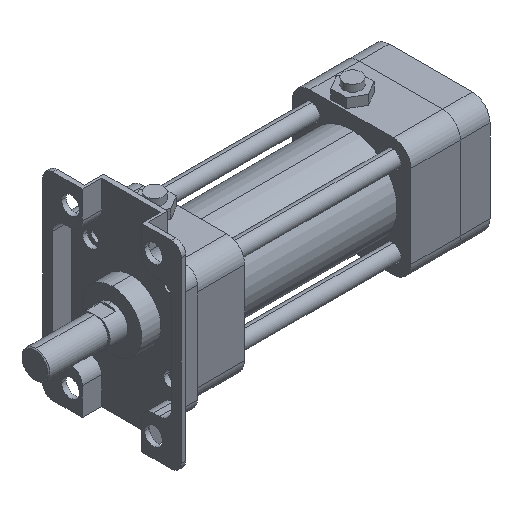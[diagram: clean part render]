
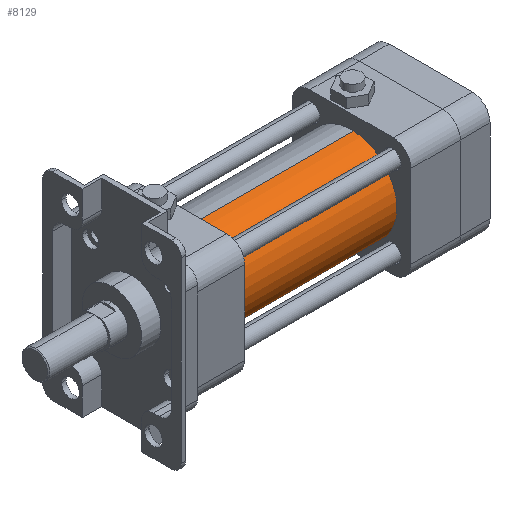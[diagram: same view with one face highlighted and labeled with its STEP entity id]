
A CAD part, isometric view. The second image highlights one B-rep face of the part: STEP entity #8129.
In plain terms, the highlighted cylindrical face has radius 23 mm (diameter 46 mm), a partial arc.
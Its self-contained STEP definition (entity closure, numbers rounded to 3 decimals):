
#30 = VERTEX_POINT ( 'NONE', #4611 ) ;
#730 = VERTEX_POINT ( 'NONE', #11899 ) ;
#848 = ORIENTED_EDGE ( 'NONE', *, *, #11825, .T. ) ;
#1367 = CYLINDRICAL_SURFACE ( 'NONE', #7016, 23. ) ;
#1640 = EDGE_CURVE ( 'NONE', #730, #6304, #3526, .T. ) ;
#1740 = FACE_OUTER_BOUND ( 'NONE', #4678, .T. ) ;
#2250 = LINE ( 'NONE', #5351, #10307 ) ;
#2354 = DIRECTION ( 'NONE',  ( -1., 0., 0. ) ) ;
#2747 = DIRECTION ( 'NONE',  ( -1., 0., 0. ) ) ;
#3526 = LINE ( 'NONE', #4486, #10509 ) ;
#3547 = ORIENTED_EDGE ( 'NONE', *, *, #1640, .F. ) ;
#3685 = DIRECTION ( 'NONE',  ( -1., 0., 0. ) ) ;
#3917 = CARTESIAN_POINT ( 'NONE',  ( -42., 0., 0. ) ) ;
#4486 = CARTESIAN_POINT ( 'NONE',  ( -29.1, 0., -23. ) ) ;
#4611 = CARTESIAN_POINT ( 'NONE',  ( -42., 0., 23. ) ) ;
#4678 = EDGE_LOOP ( 'NONE', ( #3547, #848, #11901, #10249 ) ) ;
#4828 = DIRECTION ( 'NONE',  ( 0., 0., 1. ) ) ;
#4902 = VERTEX_POINT ( 'NONE', #6445 ) ;
#4997 = CARTESIAN_POINT ( 'NONE',  ( 42., 0., 0. ) ) ;
#5157 = DIRECTION ( 'NONE',  ( -1., 0., 0. ) ) ;
#5167 = AXIS2_PLACEMENT_3D ( 'NONE', #4997, #10623, #7537 ) ;
#5351 = CARTESIAN_POINT ( 'NONE',  ( -29.1, 0., 23. ) ) ;
#5614 = EDGE_CURVE ( 'NONE', #6304, #30, #8238, .T. ) ;
#6304 = VERTEX_POINT ( 'NONE', #8242 ) ;
#6445 = CARTESIAN_POINT ( 'NONE',  ( 42., 0., 23. ) ) ;
#7016 = AXIS2_PLACEMENT_3D ( 'NONE', #10826, #3685, #4828 ) ;
#7319 = CIRCLE ( 'NONE', #5167, 23. ) ;
#7537 = DIRECTION ( 'NONE',  ( 0., 0., 1. ) ) ;
#8129 = ADVANCED_FACE ( 'NONE', ( #1740 ), #1367, .T. ) ;
#8238 = CIRCLE ( 'NONE', #11115, 23. ) ;
#8242 = CARTESIAN_POINT ( 'NONE',  ( -42., 0., -23. ) ) ;
#9768 = EDGE_CURVE ( 'NONE', #4902, #30, #2250, .T. ) ;
#10249 = ORIENTED_EDGE ( 'NONE', *, *, #5614, .F. ) ;
#10307 = VECTOR ( 'NONE', #5157, 1000. ) ;
#10509 = VECTOR ( 'NONE', #2354, 1000. ) ;
#10623 = DIRECTION ( 'NONE',  ( -1., 0., 0. ) ) ;
#10826 = CARTESIAN_POINT ( 'NONE',  ( -29.1, 0., 0. ) ) ;
#11027 = DIRECTION ( 'NONE',  ( 0., 0., 1. ) ) ;
#11115 = AXIS2_PLACEMENT_3D ( 'NONE', #3917, #2747, #11027 ) ;
#11825 = EDGE_CURVE ( 'NONE', #730, #4902, #7319, .T. ) ;
#11899 = CARTESIAN_POINT ( 'NONE',  ( 42., 0., -23. ) ) ;
#11901 = ORIENTED_EDGE ( 'NONE', *, *, #9768, .T. ) ;
